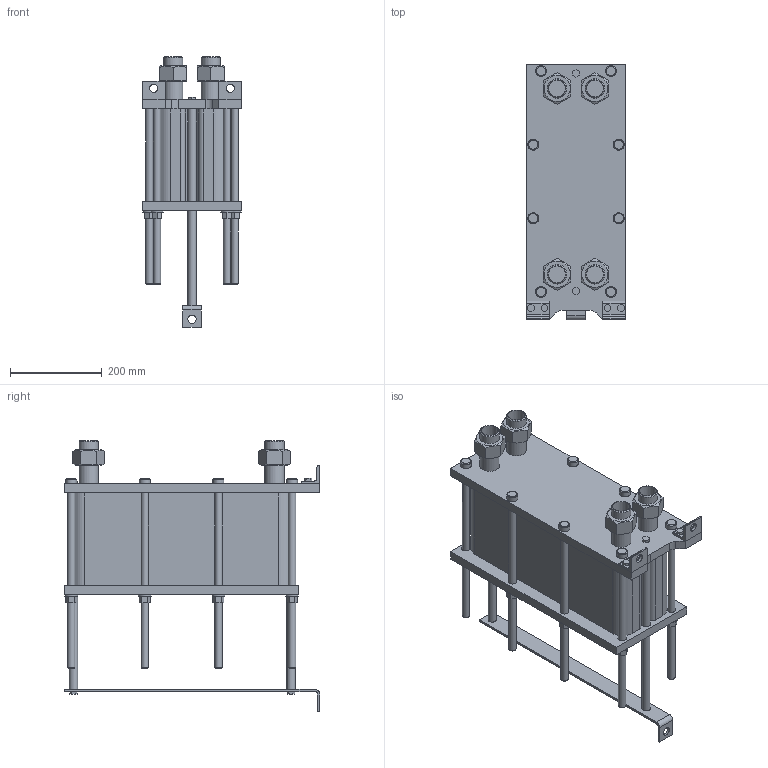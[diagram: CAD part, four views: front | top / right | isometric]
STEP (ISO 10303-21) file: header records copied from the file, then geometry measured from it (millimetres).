
FILE_DESCRIPTION(/* description */ (''),/* implementation_level */ '2;1');
FILE_NAME(/* name */ 'C:\Users\zhuro\Desktop\ENCO\TO\ЭН-004\ЭН-0,5-004-65-1.stp',/* time_stamp */ '2022-06-06T10:48:35+03:00',/* author */ ('zhuro'),/* organization */ (''),/* preprocessor_version */ 'ST-DEVELOPER v18.1',/* originating_system */ 'Autodesk Inventor 2022',/* authorisation */ '');
FILE_SCHEMA (('AUTOMOTIVE_DESIGN { 1 0 10303 214 3 1 1 }'));
Length unit declared in the file: millimetre
Products named in the file (1): ЭН-0,5-004-65-1
Bounding box: 216 x 555 x 589 mm (x, y, z)
Volume: 20743388.6 mm3; surface area: 1395174.1 mm2
Topology: 40 solids, 40 shells, 403 faces, 865 edges, 574 vertices
Faces by surface type: plane 272, cylinder 103, cone 28
Full cylindrical faces by diameter (mm): 10 x4, 16 x16, 18 x29, 20 x2, 24 x8, 28 x8, 36.3 x5, 42.3 x9
Entity records: 11137 total; most frequent: CARTESIAN_POINT 1939, DIRECTION 1879, ORIENTED_EDGE 1730, EDGE_CURVE 865, AXIS2_PLACEMENT_3D 658, VERTEX_POINT 574, LINE 563, VECTOR 563
